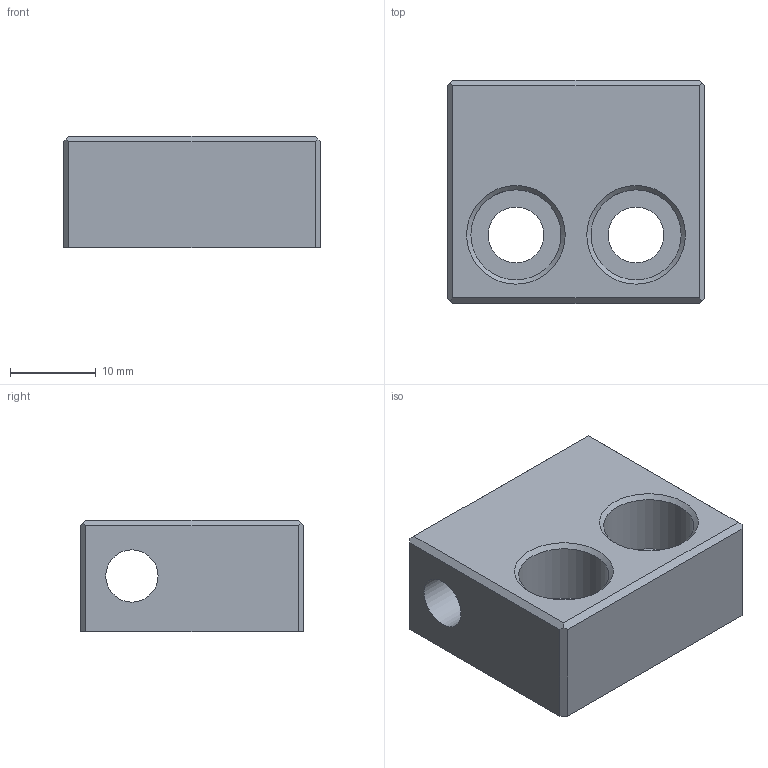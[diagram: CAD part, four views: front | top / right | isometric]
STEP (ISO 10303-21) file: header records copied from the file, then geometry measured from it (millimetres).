
FILE_DESCRIPTION( ( 'STEP AP214' ), '1' );
FILE_NAME( 'p:/temp/worker_159/temp/exporttempdir_3816_176_QoHH6/format_0/AB-302613.stp', '2020-11-02T19:45:54', ( 'License CC BY-ND 4.0' ), ( 'CADENAS' ), ' ', 'PARTsolutions', ' ' );
FILE_SCHEMA( ( 'AUTOMOTIVE_DESIGN { 1 0 10303 214 1 1 1 1 }' ) );
Length unit declared in the file: millimetre
Products named in the file (1): _AB-302613
Bounding box: 30 x 26 x 13 mm (x, y, z)
Volume: 7557.1 mm3; surface area: 4036.9 mm2
Topology: 1 solids, 1 shells, 23 faces, 56 edges, 37 vertices
Faces by surface type: plane 16, cylinder 5, cone 2
Full cylindrical faces by diameter (mm): 6.1 x1, 6.5 x2, 10.5 x2
Entity records: 842 total; most frequent: CARTESIAN_POINT 108, DIRECTION 108, ORIENTED_EDGE 96, EDGE_CURVE 48, EDGE_LOOP 38, AXIS2_PLACEMENT_3D 36, VERTEX_POINT 36, LINE 36
